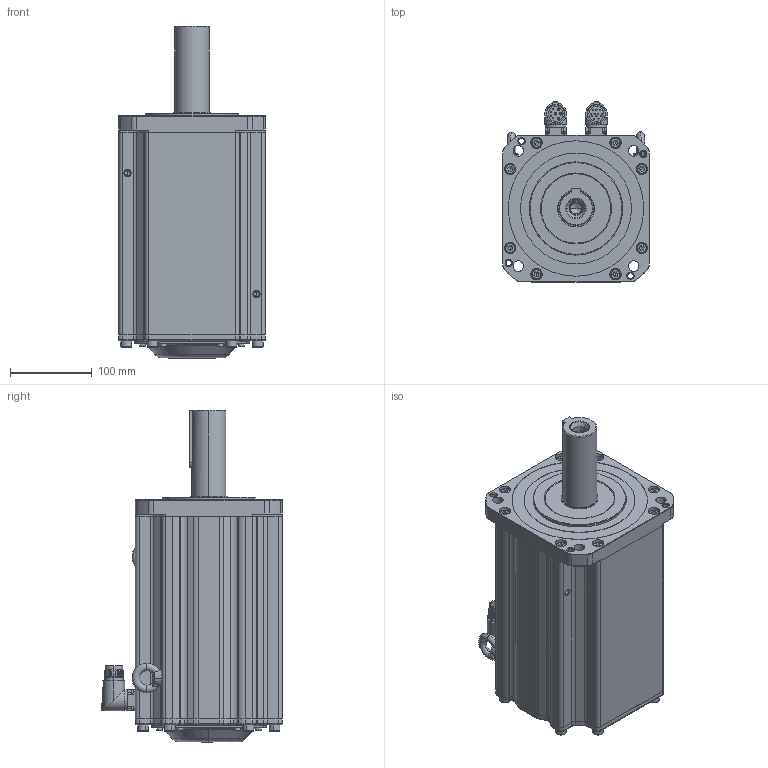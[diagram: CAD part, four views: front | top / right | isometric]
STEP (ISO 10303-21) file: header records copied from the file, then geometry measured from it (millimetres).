
FILE_DESCRIPTION (( 'STEP AP203' ), '1' );
FILE_NAME ('MC20-180-3M20-N752-1¡õPK-NNNN.STEP', '2025-05-05T03:29:32', ( '' ), ( '' ), 'SwSTEP 2.0', 'SolidWorks 2014', '' );
FILE_SCHEMA (( 'CONFIG_CONTROL_DESIGN' ));
Length unit declared in the file: millimetre
Products named in the file (1): MC20-180-3M20-N752-1¡õPK-NNNN
Bounding box: 180 x 221.35 x 406.95 mm (x, y, z)
Volume: 4607408.1 mm3; surface area: 643597 mm2
Topology: 40 solids, 42 shells, 2190 faces, 5098 edges, 3031 vertices
Faces by surface type: plane 883, cylinder 569, cone 483, torus 208, bspline 47
Entity records: 63892 total; most frequent: CARTESIAN_POINT 13748, DIRECTION 11030, ORIENTED_EDGE 9944, EDGE_CURVE 4972, AXIS2_PLACEMENT_3D 4270, VERTEX_POINT 3031, VECTOR 2490, LINE 2490
